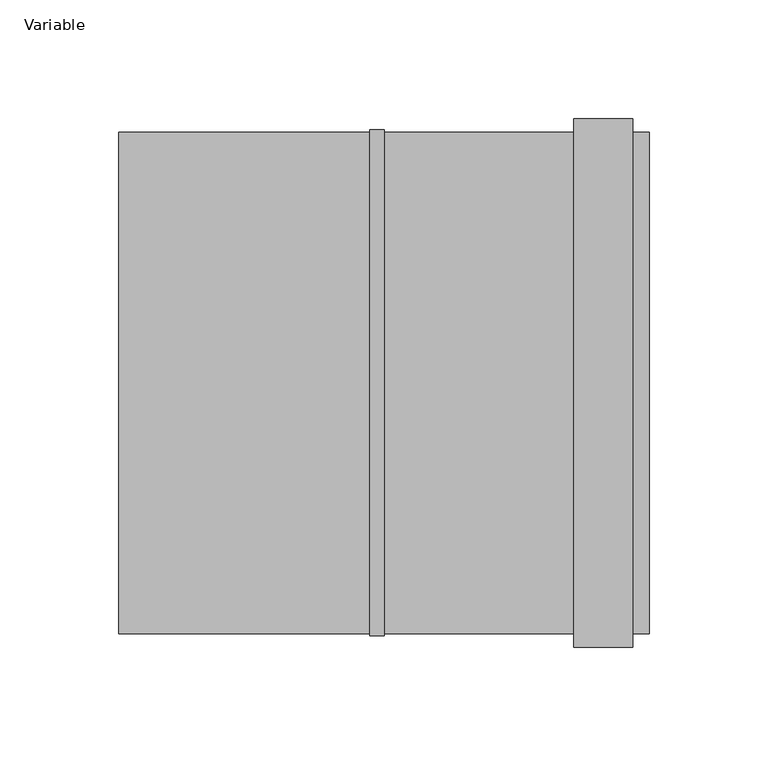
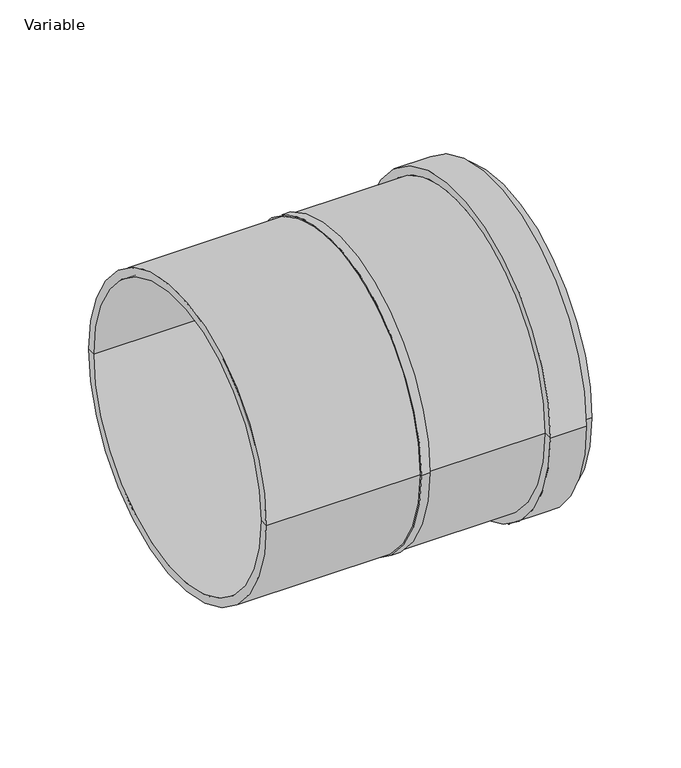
"""IFC4 building model written with IfcOpenShell, lengths in millimetres: pipe fitting geometry, AliaxisFR_Friaphon_MixedCoupling_FR : Variable."""

from ifc_helpers import new_model, si_unit, frame, origin, place, context, project, spatial, polyline, circle_curve, source, transform, mapped, element, save
from ifc_brep_helpers import plane_surface, cylinder_surface, revolved_surface, advanced_brep


def variable_021b65fb(model_context):
    return source(origin(), model_context, "Body", "AdvancedBrep", [
        advanced_brep(
        [(115.5, 105.75, 0.0), (115.5, 100.0, 0.0), (115.5, -100.0, 0.0), (115.5, -105.75, 0.0), (108.5, 105.75, 0.0), (108.5, -105.75, 0.0), (108.5, 111.5, 0.0), (108.5, -111.5, 0.0), (83.5, 111.5, 0.0), (83.5, -111.5, 0.0), (83.5, 105.75, 0.0), (83.5, -105.75, 0.0), (3.5, 105.75, 0.0), (3.5, -105.75, 0.0), (-108.5, 100.0, 0.0), (-108.5, 105.75, 0.0), (-108.5, -105.75, 0.0), (-108.5, -100.0, 0.0), (-2.5, 100.0, 0.0), (-2.5, -100.0, 0.0), (-2.5, 0.0, 0.0), (2.5, 100.0, 0.0), (2.5, -100.0, 0.0), (3.5, 106.75, 0.0), (3.5, -106.75, 0.0), (-2.5, 106.75, 0.0), (-2.5, -106.75, 0.0), (-2.5, 105.75, 0.0), (-2.5, -105.75, 0.0), (2.5, 0.0, 0.0)],
        [
            (0, 1),
            (1, 2, circle_curve(frame((115.5, 0.0, 0.0), z_axis=(-1.0, 0.0, 0.0), x_axis=(0.0, -1.0, 0.0)), 100.0)),
            (2, 3),
            (3, 0, circle_curve(frame((115.5, 0.0, 0.0), z_axis=(1.0, 0.0, 0.0), x_axis=(0.0, -1.0, 0.0)), 105.75)),
            (2, 1, circle_curve(frame((115.5, 0.0, 0.0), z_axis=(-1.0, 0.0, 0.0), x_axis=(0.0, -1.0, 0.0)), 100.0)),
            (0, 3, circle_curve(frame((115.5, 0.0, 0.0), z_axis=(1.0, 0.0, 0.0), x_axis=(0.0, -1.0, 0.0)), 105.75)),
            (4, 0),
            (3, 5),
            (5, 4, circle_curve(frame((108.5, 0.0, 0.0), z_axis=(1.0, 0.0, 0.0), x_axis=(0.0, -1.0, 0.0)), 105.75)),
            (4, 5, circle_curve(frame((108.5, 0.0, 0.0), z_axis=(1.0, 0.0, 0.0), x_axis=(0.0, -1.0, 0.0)), 105.75)),
            (6, 4),
            (5, 7),
            (7, 6, circle_curve(frame((108.5, 0.0, 0.0), z_axis=(1.0, 0.0, 0.0), x_axis=(0.0, -1.0, 0.0)), 111.5)),
            (6, 7, circle_curve(frame((108.5, 0.0, 0.0), z_axis=(1.0, 0.0, 0.0), x_axis=(0.0, -1.0, 0.0)), 111.5)),
            (8, 6),
            (7, 9),
            (9, 8, circle_curve(frame((83.5, 0.0, 0.0), z_axis=(1.0, 0.0, 0.0), x_axis=(0.0, -1.0, 0.0)), 111.5)),
            (8, 9, circle_curve(frame((83.5, 0.0, 0.0), z_axis=(1.0, 0.0, 0.0), x_axis=(0.0, -1.0, 0.0)), 111.5)),
            (10, 8),
            (9, 11),
            (11, 10, circle_curve(frame((83.5, 0.0, 0.0), z_axis=(1.0, 0.0, 0.0), x_axis=(0.0, -1.0, 0.0)), 105.75)),
            (10, 11, circle_curve(frame((83.5, 0.0, 0.0), z_axis=(1.0, 0.0, 0.0), x_axis=(0.0, -1.0, 0.0)), 105.75)),
            (12, 10),
            (11, 13),
            (13, 12, circle_curve(frame((3.5, 0.0, 0.0), z_axis=(1.0, 0.0, 0.0), x_axis=(0.0, -1.0, 0.0)), 105.75)),
            (12, 13, circle_curve(frame((3.5, 0.0, 0.0), z_axis=(1.0, 0.0, 0.0), x_axis=(0.0, -1.0, 0.0)), 105.75)),
            (14, 15),
            (15, 16, circle_curve(frame((-108.5, 0.0, 0.0), z_axis=(-1.0, 0.0, 0.0), x_axis=(0.0, -1.0, 0.0)), 105.75)),
            (16, 17),
            (17, 14, circle_curve(frame((-108.5, 0.0, 0.0), z_axis=(1.0, 0.0, 0.0), x_axis=(0.0, -1.0, 0.0)), 100.0)),
            (16, 15, circle_curve(frame((-108.5, 0.0, 0.0), z_axis=(-1.0, 0.0, 0.0), x_axis=(0.0, -1.0, 0.0)), 105.75)),
            (14, 17, circle_curve(frame((-108.5, 0.0, 0.0), z_axis=(1.0, 0.0, 0.0), x_axis=(0.0, -1.0, 0.0)), 100.0)),
            (18, 14),
            (17, 19),
            (19, 18, circle_curve(frame((-2.5, 0.0, 0.0), z_axis=(1.0, 0.0, 0.0), x_axis=(0.0, -1.0, 0.0)), 100.0)),
            (18, 19, circle_curve(frame((-2.5, 0.0, 0.0), z_axis=(1.0, 0.0, 0.0), x_axis=(0.0, -1.0, 0.0)), 100.0)),
            (20, 18),
            (19, 20),
            (1, 21),
            (21, 22, circle_curve(frame((2.5, 0.0, 0.0), z_axis=(-1.0, 0.0, 0.0), x_axis=(0.0, -1.0, 0.0)), 100.0)),
            (22, 2),
            (22, 21, circle_curve(frame((2.5, 0.0, 0.0), z_axis=(-1.0, 0.0, 0.0), x_axis=(0.0, -1.0, 0.0)), 100.0)),
            (23, 12),
            (13, 24),
            (24, 23, circle_curve(frame((3.5, 0.0, 0.0), z_axis=(1.0, 0.0, 0.0), x_axis=(0.0, -1.0, 0.0)), 106.75)),
            (23, 24, circle_curve(frame((3.5, 0.0, 0.0), z_axis=(1.0, 0.0, 0.0), x_axis=(0.0, -1.0, 0.0)), 106.75)),
            (25, 23),
            (24, 26),
            (26, 25, circle_curve(frame((-2.5, 0.0, 0.0), z_axis=(1.0, 0.0, 0.0), x_axis=(0.0, -1.0, 0.0)), 106.75)),
            (25, 26, circle_curve(frame((-2.5, 0.0, 0.0), z_axis=(1.0, 0.0, 0.0), x_axis=(0.0, -1.0, 0.0)), 106.75)),
            (27, 25),
            (26, 28),
            (28, 27, circle_curve(frame((-2.5, 0.0, 0.0), z_axis=(1.0, 0.0, 0.0), x_axis=(0.0, -1.0, 0.0)), 105.75)),
            (27, 28, circle_curve(frame((-2.5, 0.0, 0.0), z_axis=(1.0, 0.0, 0.0), x_axis=(0.0, -1.0, 0.0)), 105.75)),
            (15, 27),
            (28, 16),
            (21, 29),
            (29, 22),
        ],
        [
            plane_surface(frame((115.5, 0.0, 0.0), z_axis=(1.0, 0.0, 0.0), x_axis=(0.0, -1.0, 0.0))),
            cylinder_surface(frame((2063.5, 0.0, 0.0), z_axis=(-1.0, 0.0, 0.0), x_axis=(0.0, -1.0, 0.0)), 105.75),
            plane_surface(frame((108.5, 0.0, 0.0), z_axis=(1.0, 0.0, 0.0), x_axis=(0.0, -1.0, 0.0))),
            cylinder_surface(frame((2063.5, 0.0, 0.0), z_axis=(-1.0, 0.0, 0.0), x_axis=(0.0, -1.0, 0.0)), 111.5),
            plane_surface(frame((83.5, 0.0, 0.0), z_axis=(-1.0, 0.0, 0.0), x_axis=(0.0, -1.0, 0.0))),
            plane_surface(frame((-108.5, 0.0, 0.0), z_axis=(-1.0, 0.0, 0.0), x_axis=(0.0, -1.0, 0.0))),
            revolved_surface(polyline([(-108.5, -100.0, 0.0), (-2.5, -100.0, 0.0)]), (2063.5, 0.0, 0.0), (-1.0, 0.0, 0.0)),
            plane_surface(frame((-2.5, 0.0, 0.0), z_axis=(-1.0, 0.0, 0.0), x_axis=(0.0, -1.0, 0.0))),
            revolved_surface(polyline([(2.5, -100.0, 0.0), (115.5, -100.0, 0.0)]), (2063.5, 0.0, 0.0), (-1.0, 0.0, 0.0)),
            plane_surface(frame((3.5, 0.0, 0.0), z_axis=(1.0, 0.0, 0.0), x_axis=(0.0, -1.0, 0.0))),
            cylinder_surface(frame((2063.5, 0.0, 0.0), z_axis=(-1.0, 0.0, 0.0), x_axis=(0.0, -1.0, 0.0)), 106.75),
            plane_surface(frame((2.5, 0.0, 0.0), z_axis=(1.0, 0.0, 0.0), x_axis=(0.0, -1.0, 0.0))),
        ],
        [
            (0, [[1, 2, 3, 4]]),
            (0, [[-3, 5, -1, 6]]),
            (1, [[7, -4, 8, 9]]),
            (1, [[-8, -6, -7, 10]]),
            (2, [[11, -9, 12, 13]]),
            (2, [[-12, -10, -11, 14]]),
            (3, [[15, -13, 16, 17]]),
            (3, [[-16, -14, -15, 18]]),
            (4, [[19, -17, 20, 21]]),
            (4, [[-20, -18, -19, 22]]),
            (1, [[23, -21, 24, 25]]),
            (1, [[-24, -22, -23, 26]]),
            (5, [[27, 28, 29, 30]]),
            (5, [[-29, 31, -27, 32]]),
            (6, [[33, -30, 34, 35]]),
            (6, [[-34, -32, -33, 36]]),
            (7, [[37, -35, 38]]),
            (7, [[-38, -36, -37]]),
            (8, [[39, 40, 41, -2]]),
            (8, [[-41, 42, -39, -5]]),
            (9, [[43, -25, 44, 45]]),
            (9, [[-44, -26, -43, 46]]),
            (10, [[47, -45, 48, 49]]),
            (10, [[-48, -46, -47, 50]]),
            (7, [[51, -49, 52, 53]]),
            (7, [[-52, -50, -51, 54]]),
            (1, [[55, -53, 56, -28]]),
            (1, [[-56, -54, -55, -31]]),
            (11, [[57, 58, -40]]),
            (11, [[-58, -57, -42]]),
        ],
    ),
    ])


if __name__ == "__main__":
    model = new_model("IFC4")
    model_context = context("Model", 3, world=origin())
    ifc_project = project(units=[si_unit("LENGTHUNIT", "METRE", prefix="MILLI")], contexts=[model_context])
    site = spatial("IfcSite", under=ifc_project)
    building = spatial("IfcBuilding", under=site)
    placement = place(None, origin())
    variable_shape = variable_021b65fb(model_context)
    element("IfcPipeFitting", 1, ObjectType="AliaxisFR_Friaphon_MixedCoupling_FR : Variable", at=placement, inside=building, context=model_context, shape_type="MappedRepresentation", body=[
        mapped(variable_shape, transform((0.0, 0.0, 0.0), x_axis=(1.0, 0.0, 0.0), y_axis=(0.0, 1.0, 0.0), z_axis=(0.0, 0.0, 1.0))),
    ])
    save(model, "model.ifc")
